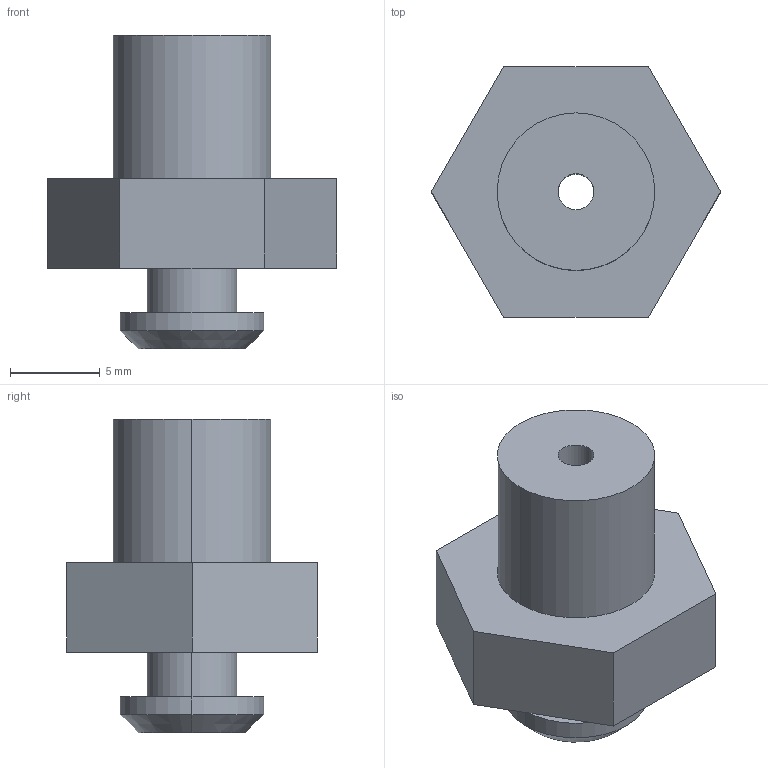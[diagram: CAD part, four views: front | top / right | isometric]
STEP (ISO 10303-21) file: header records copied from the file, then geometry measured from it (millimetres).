
FILE_DESCRIPTION (( 'STEP AP214' ), '1' );
FILE_NAME ('VM32-G18.STEP', '2023-03-07T08:20:49', ( 'Windows User' ), ( 'P R C' ), 'SwSTEP 2.0', 'SolidWorks 2019', '' );
FILE_SCHEMA (( 'AUTOMOTIVE_DESIGN' ));
Length unit declared in the file: millimetre
Products named in the file (1): VM32-G18
Bounding box: 16.17 x 14 x 17.5 mm (x, y, z)
Volume: 1418.4 mm3; surface area: 1041.6 mm2
Topology: 1 solids, 1 shells, 21 faces, 46 edges, 30 vertices
Faces by surface type: plane 11, cylinder 8, cone 2
Entity records: 620 total; most frequent: DIRECTION 108, CARTESIAN_POINT 98, ORIENTED_EDGE 92, EDGE_CURVE 46, AXIS2_PLACEMENT_3D 40, VERTEX_POINT 30, VECTOR 28, LINE 28
